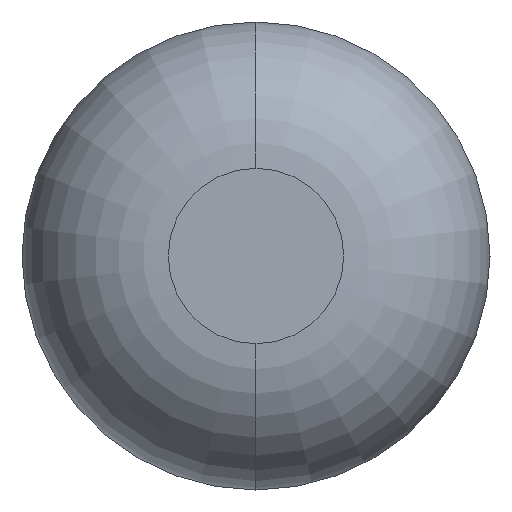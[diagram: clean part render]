
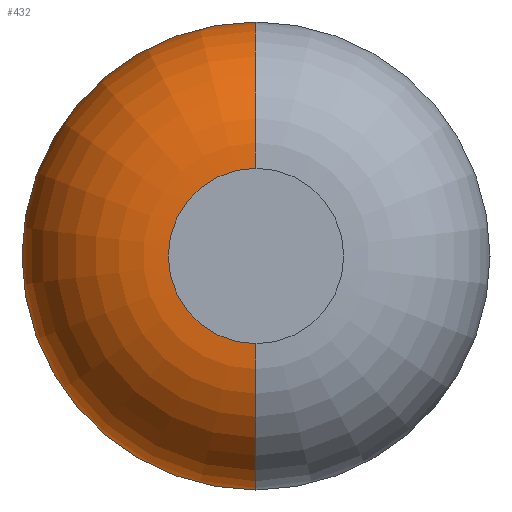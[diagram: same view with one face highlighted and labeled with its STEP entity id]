
A CAD part, left-side view. The second image highlights one B-rep face of the part: STEP entity #432.
In plain terms, the highlighted toroidal (fillet/blend) face has major radius 1.5 mm and minor radius 2.5 mm.
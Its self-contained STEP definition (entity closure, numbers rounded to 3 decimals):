
#1 = AXIS2_PLACEMENT_3D ( 'NONE', #639, #109, #711 ) ;
#15 = CARTESIAN_POINT ( 'NONE',  ( 0., 0., 1.5 ) ) ;
#19 = AXIS2_PLACEMENT_3D ( 'NONE', #545, #23, #629 ) ;
#23 = DIRECTION ( 'NONE',  ( -1., 0., 0. ) ) ;
#34 = DIRECTION ( 'NONE',  ( 0., 0., 1. ) ) ;
#109 = DIRECTION ( 'NONE',  ( 0., -1., 0. ) ) ;
#113 = DIRECTION ( 'NONE',  ( -1., 0., 0. ) ) ;
#166 = EDGE_CURVE ( 'NONE', #1012, #1050, #1032, .T. ) ;
#195 = CARTESIAN_POINT ( 'NONE',  ( 0., 0., 0. ) ) ;
#219 = ORIENTED_EDGE ( 'NONE', *, *, #166, .F. ) ;
#224 = AXIS2_PLACEMENT_3D ( 'NONE', #935, #453, #1009 ) ;
#248 = VERTEX_POINT ( 'NONE', #349 ) ;
#300 = AXIS2_PLACEMENT_3D ( 'NONE', #195, #113, #34 ) ;
#305 = CIRCLE ( 'NONE', #1, 2.5 ) ;
#311 = CARTESIAN_POINT ( 'NONE',  ( 2.5, 0., 0. ) ) ;
#349 = CARTESIAN_POINT ( 'NONE',  ( 2.5, 0., 4. ) ) ;
#412 = EDGE_LOOP ( 'NONE', ( #459, #479, #219, #551 ) ) ;
#417 = CARTESIAN_POINT ( 'NONE',  ( 2.5, 0., -4. ) ) ;
#432 = ADVANCED_FACE ( 'NONE', ( #823 ), #628, .T. ) ;
#453 = DIRECTION ( 'NONE',  ( 0., 1., 0. ) ) ;
#459 = ORIENTED_EDGE ( 'NONE', *, *, #1015, .T. ) ;
#479 = ORIENTED_EDGE ( 'NONE', *, *, #528, .T. ) ;
#528 = EDGE_CURVE ( 'NONE', #772, #1050, #805, .T. ) ;
#530 = EDGE_CURVE ( 'NONE', #248, #1012, #305, .T. ) ;
#545 = CARTESIAN_POINT ( 'NONE',  ( 2.5, 0., 0. ) ) ;
#551 = ORIENTED_EDGE ( 'NONE', *, *, #530, .F. ) ;
#590 = DIRECTION ( 'NONE',  ( 0., 0., 1. ) ) ;
#628 = TOROIDAL_SURFACE ( 'NONE', #642, 1.5, 2.5 ) ;
#629 = DIRECTION ( 'NONE',  ( 0., 0., 1. ) ) ;
#639 = CARTESIAN_POINT ( 'NONE',  ( 2.5, 0., 1.5 ) ) ;
#642 = AXIS2_PLACEMENT_3D ( 'NONE', #311, #1033, #590 ) ;
#711 = DIRECTION ( 'NONE',  ( 0., 0., -1. ) ) ;
#772 = VERTEX_POINT ( 'NONE', #417 ) ;
#774 = CARTESIAN_POINT ( 'NONE',  ( 0., 0., -1.5 ) ) ;
#805 = CIRCLE ( 'NONE', #224, 2.5 ) ;
#823 = FACE_OUTER_BOUND ( 'NONE', #412, .T. ) ;
#935 = CARTESIAN_POINT ( 'NONE',  ( 2.5, 0., -1.5 ) ) ;
#941 = CIRCLE ( 'NONE', #19, 4. ) ;
#1009 = DIRECTION ( 'NONE',  ( 0., 0., 1. ) ) ;
#1012 = VERTEX_POINT ( 'NONE', #15 ) ;
#1015 = EDGE_CURVE ( 'NONE', #248, #772, #941, .T. ) ;
#1032 = CIRCLE ( 'NONE', #300, 1.5 ) ;
#1033 = DIRECTION ( 'NONE',  ( -1., 0., 0. ) ) ;
#1050 = VERTEX_POINT ( 'NONE', #774 ) ;
